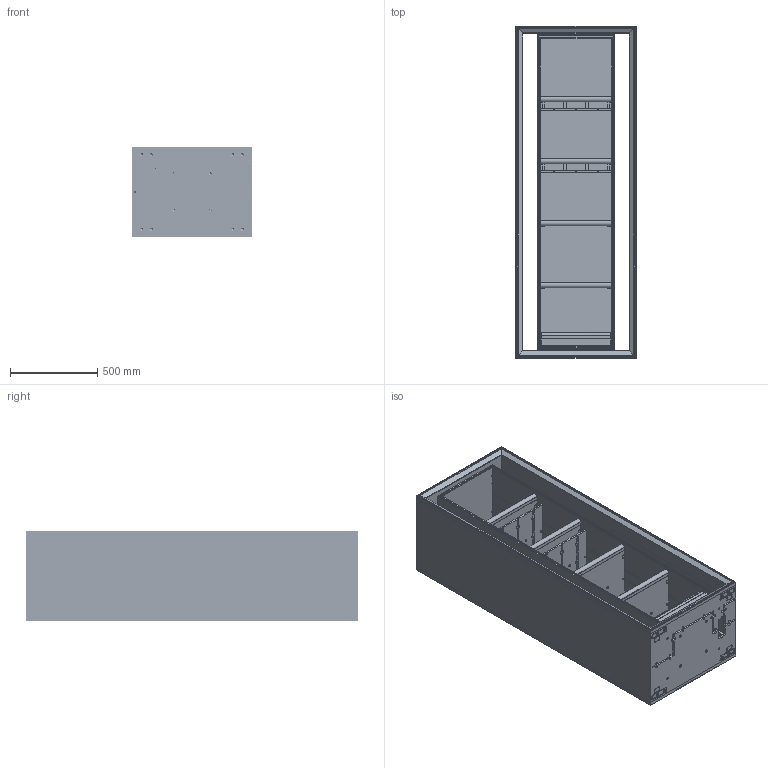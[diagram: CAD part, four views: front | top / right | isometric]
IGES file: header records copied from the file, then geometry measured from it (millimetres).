
Global section: file name: 80055; native system: Autodesk Inventor 2014; preprocessor: unknown; author: Robertom; date: 20140526.111845; units: millimetre
Bounding box: 690 x 1900 x 520 mm (x, y, z)
Volume: 152647066 mm3; surface area: 17758860.2 mm2
Topology: 92 solids, 92 shells, 3020 faces, 8826 edges, 6126 vertices
Faces by surface type: bspline 3020
